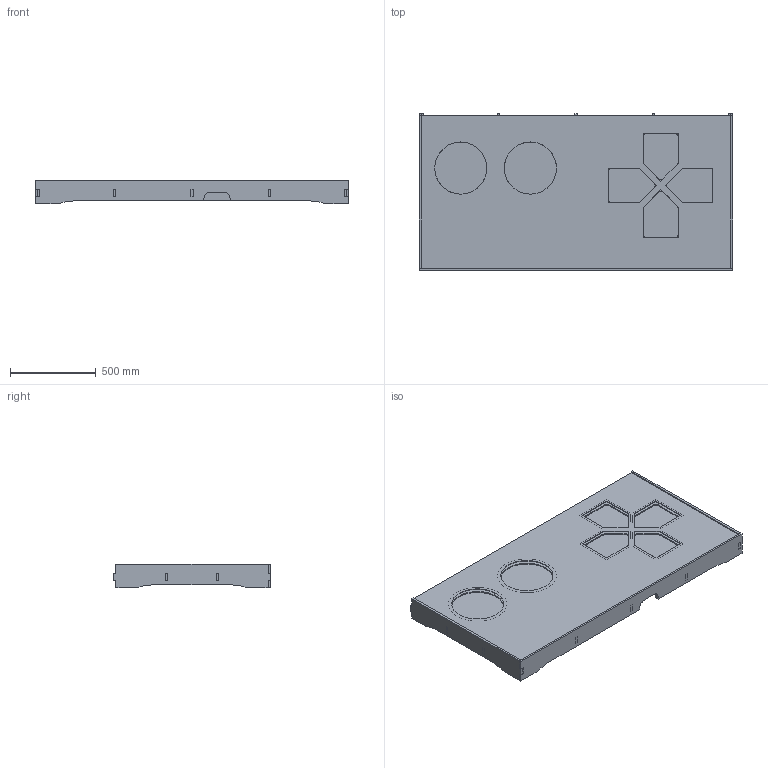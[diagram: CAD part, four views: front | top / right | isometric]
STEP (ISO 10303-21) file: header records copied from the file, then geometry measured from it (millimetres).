
FILE_DESCRIPTION(/* description */ ('','CAx-IF Rec.Pracs.---Representation and Presentation of Product Manufacturing Information (PMI)---4.0---2014-10-13'),/* implementation_level */ '2;1');
FILE_NAME(/* name */ 'mixtendo 2 v3.step',/* time_stamp */ '2025-03-19T15:10:44-07:00',/* author */ (''),/* organization */ (''),/* preprocessor_version */ 'ST-DEVELOPER v20',/* originating_system */ 'Autodesk Translation Framework v13.20.0.188',/* authorisation */ '');
FILE_SCHEMA (('AP242_MANAGED_MODEL_BASED_3D_ENGINEERING_MIM_LF { 1 0 10303 442 1 1 4 }'));
Length unit declared in the file: inch
Products named in the file (1): mixtendo 2
Bounding box: 1828.8 x 914.4 x 139.7 mm (x, y, z)
Volume: 43443692.5 mm3; surface area: 9222846.9 mm2
Topology: 14 solids, 14 shells, 460 faces, 1278 edges, 852 vertices
Faces by surface type: plane 416, cylinder 44
Full cylindrical faces by diameter (mm): 304.8 x2, 342.9 x2
Entity records: 14608 total; most frequent: CARTESIAN_POINT 2591, ORIENTED_EDGE 2556, DIRECTION 2288, EDGE_CURVE 1278, LINE 1190, VECTOR 1190, VERTEX_POINT 852, AXIS2_PLACEMENT_3D 549
